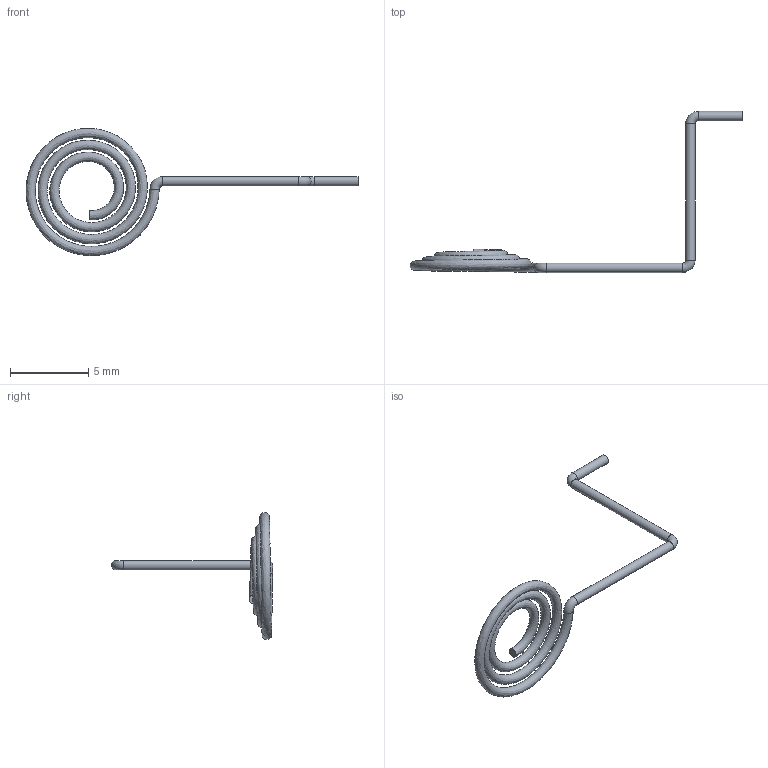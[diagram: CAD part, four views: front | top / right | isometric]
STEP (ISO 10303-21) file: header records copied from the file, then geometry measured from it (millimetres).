
FILE_DESCRIPTION(/* description */ (''),/* implementation_level */ '2;1');
FILE_NAME(/* name */ 'C:/Users/RileyStevenson/RileyS/Git-Repos/hybrid-lora-satellite-gps-tracker/My3DModels/Positive Coil - Simple Version v3.step',/* time_stamp */ '2022-02-24T00:08:47-06:00',/* author */ (''),/* organization */ (''),/* preprocessor_version */ 'ST-DEVELOPER v18.1',/* originating_system */ 'Autodesk Translation Framework v10.13.0.1454',/* authorisation */ '');
FILE_SCHEMA (('AUTOMOTIVE_DESIGN { 1 0 10303 214 3 1 1 }'));
Length unit declared in the file: millimetre
Products named in the file (1): Positive Coil - Simple Version
Bounding box: 21.22 x 10.3 x 8.13 mm (x, y, z)
Volume: 23.2 mm3; surface area: 155.3 mm2
Topology: 1 solids, 1 shells, 9 faces, 20 edges, 13 vertices
Faces by surface type: cylinder 3, torus 3, plane 2, bspline 1
Full cylindrical faces by diameter (mm): 0.6 x3
Entity records: 636 total; most frequent: CARTESIAN_POINT 389, DIRECTION 53, ORIENTED_EDGE 40, AXIS2_PLACEMENT_3D 25, EDGE_CURVE 20, CIRCLE 16, VERTEX_POINT 13, FACE_OUTER_BOUND 9
